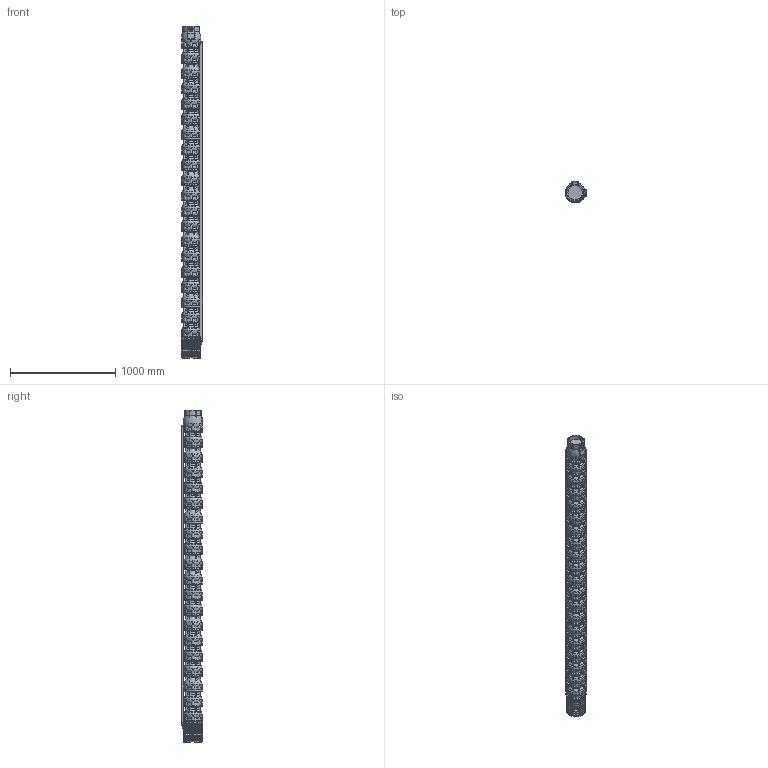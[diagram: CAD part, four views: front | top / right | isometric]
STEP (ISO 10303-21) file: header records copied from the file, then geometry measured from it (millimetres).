
FILE_DESCRIPTION(/* description */ ('Unknown'),/* implementation_level */ '2;1');
FILE_NAME(/* name */ 'VSI134-19_WR_M8-50_SLE',/* time_stamp */ '2023-09-14T14:52:43+02:00',/* author */ ('Unknown'),/* organization */ ('Unknown'),/* preprocessor_version */ 'ST-DEVELOPER v18.102',/* originating_system */ 'Solid Edge',/* authorisation */ 'Unknown');
FILE_SCHEMA (('AUTOMOTIVE_DESIGN {1 0 10303 214 3 1 1}'));
Products named in the file (11): VSI134-19_WR_M8-50_SLE; VSI134_testata; VSI134_diffusore; VSI134_supporto_8×8; VSI134_filtro_A; VSI134_filtro_B; VSI134_terminale_top_copricavo_basso; VSI134_terminale_bottom_copricavo_basso; LOW 134-19; M5X8_UNI7687; VSI134_giunto_8×8
Assembly tree (42 placements, depth 2):
  VSI134-19_WR_M8-50_SLE
    VSI134_testata
    VSI134_diffusore  x19
    VSI134_supporto_8×8
    VSI134_filtro_A
    VSI134_filtro_B
    VSI134_terminale_top_copricavo_basso  x2
    VSI134_terminale_bottom_copricavo_basso  x2
    LOW 134-19  x2
    M5X8_UNI7687  x12
    VSI134_giunto_8×8
Bounding box: 201.57 x 202.09 x 3152 mm (x, y, z)
Volume: 59093920.8 mm3; surface area: 4785112.5 mm2
Topology: 81 solids, 83 shells, 5737 faces, 16189 edges, 10813 vertices
Faces by surface type: plane 4011, torus 873, cylinder 734, cone 74, bspline 31, sphere 14
Full cylindrical faces by diameter (mm): 2.4 x2, 3 x2, 4.2 x16, 5 x12, 5.5 x8, 26 x1, 44 x1, 69 x1, 74 x1, 98 x1, 135.472 x1, 157 x1, 182 x20
Entity records: 85649 total; most frequent: CARTESIAN_POINT 18375, ORIENTED_EDGE 14056, DIRECTION 13514, EDGE_CURVE 7028, VERTEX_POINT 4730, AXIS2_PLACEMENT_3D 4608, LINE 4298, VECTOR 4298
